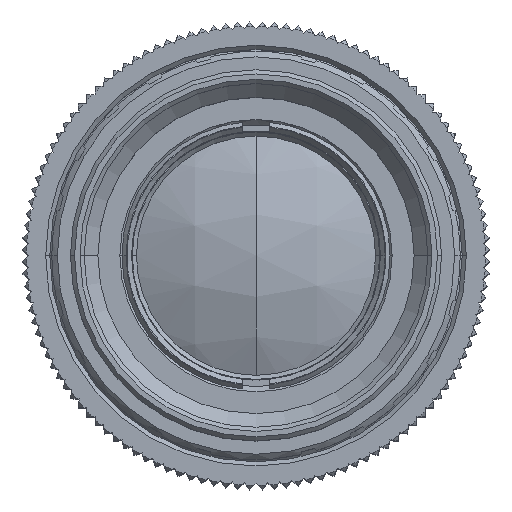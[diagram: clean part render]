
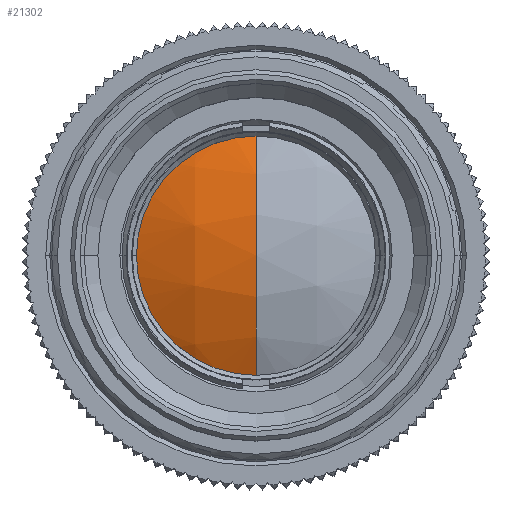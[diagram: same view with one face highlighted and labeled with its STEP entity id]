
A CAD part, top view. The second image highlights one B-rep face of the part: STEP entity #21302.
In plain terms, the highlighted spherical face has radius 19.24 mm.
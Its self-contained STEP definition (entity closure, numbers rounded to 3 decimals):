
#199 = AXIS2_PLACEMENT_3D ( 'NONE', #23183, #34048, #33886 ) ;
#1096 = FACE_OUTER_BOUND ( 'NONE', #25336, .T. ) ;
#1454 = AXIS2_PLACEMENT_3D ( 'NONE', #1618, #30635, #22755 ) ;
#1618 = CARTESIAN_POINT ( 'NONE',  ( 0., 0., -22.606 ) ) ;
#1761 = ORIENTED_EDGE ( 'NONE', *, *, #25092, .T. ) ;
#3139 = DIRECTION ( 'NONE',  ( 0., 0., -1. ) ) ;
#3872 = EDGE_CURVE ( 'NONE', #12640, #21967, #31798, .T. ) ;
#4136 = CIRCLE ( 'NONE', #5232, 8.7 ) ;
#5232 = AXIS2_PLACEMENT_3D ( 'NONE', #21474, #3139, #29684 ) ;
#7498 = DIRECTION ( 'NONE',  ( 0., -1., 0. ) ) ;
#8241 = EDGE_CURVE ( 'NONE', #14629, #12640, #25854, .T. ) ;
#10117 = CARTESIAN_POINT ( 'NONE',  ( 0., 0., -22.606 ) ) ;
#11297 = CARTESIAN_POINT ( 'NONE',  ( 0., 0., -22.606 ) ) ;
#11884 = ORIENTED_EDGE ( 'NONE', *, *, #8241, .F. ) ;
#12119 = DIRECTION ( 'NONE',  ( 0., 0., -1. ) ) ;
#12388 = VERTEX_POINT ( 'NONE', #28251 ) ;
#12640 = VERTEX_POINT ( 'NONE', #30148 ) ;
#14629 = VERTEX_POINT ( 'NONE', #15581 ) ;
#15137 = CIRCLE ( 'NONE', #25638, 19.24 ) ;
#15581 = CARTESIAN_POINT ( 'NONE',  ( -8.7, 0., -5.445 ) ) ;
#20950 = ORIENTED_EDGE ( 'NONE', *, *, #21872, .F. ) ;
#21302 = ADVANCED_FACE ( 'NONE', ( #1096 ), #25357, .T. ) ;
#21474 = CARTESIAN_POINT ( 'NONE',  ( 0., 0., -5.445 ) ) ;
#21872 = EDGE_CURVE ( 'NONE', #12388, #14629, #4136, .T. ) ;
#21941 = DIRECTION ( 'NONE',  ( 1., 0., 0. ) ) ;
#21967 = VERTEX_POINT ( 'NONE', #24578 ) ;
#22755 = DIRECTION ( 'NONE',  ( 0., 1., 0. ) ) ;
#23183 = CARTESIAN_POINT ( 'NONE',  ( 0., 0., -5.445 ) ) ;
#24578 = CARTESIAN_POINT ( 'NONE',  ( 0., 0., -3.366 ) ) ;
#25092 = EDGE_CURVE ( 'NONE', #12388, #21967, #15137, .T. ) ;
#25336 = EDGE_LOOP ( 'NONE', ( #20950, #1761, #30926, #11884 ) ) ;
#25357 = SPHERICAL_SURFACE ( 'NONE', #1454, 19.24 ) ;
#25638 = AXIS2_PLACEMENT_3D ( 'NONE', #10117, #31429, #7498 ) ;
#25854 = CIRCLE ( 'NONE', #199, 8.7 ) ;
#28251 = CARTESIAN_POINT ( 'NONE',  ( 0., -8.7, -5.445 ) ) ;
#29684 = DIRECTION ( 'NONE',  ( -1., 0., 0. ) ) ;
#30148 = CARTESIAN_POINT ( 'NONE',  ( 0., 8.7, -5.445 ) ) ;
#30635 = DIRECTION ( 'NONE',  ( -1., 0., 0. ) ) ;
#30926 = ORIENTED_EDGE ( 'NONE', *, *, #3872, .F. ) ;
#31429 = DIRECTION ( 'NONE',  ( -1., 0., 0. ) ) ;
#31798 = CIRCLE ( 'NONE', #34599, 19.24 ) ;
#33886 = DIRECTION ( 'NONE',  ( -1., 0., 0. ) ) ;
#34048 = DIRECTION ( 'NONE',  ( 0., 0., -1. ) ) ;
#34599 = AXIS2_PLACEMENT_3D ( 'NONE', #11297, #21941, #12119 ) ;
